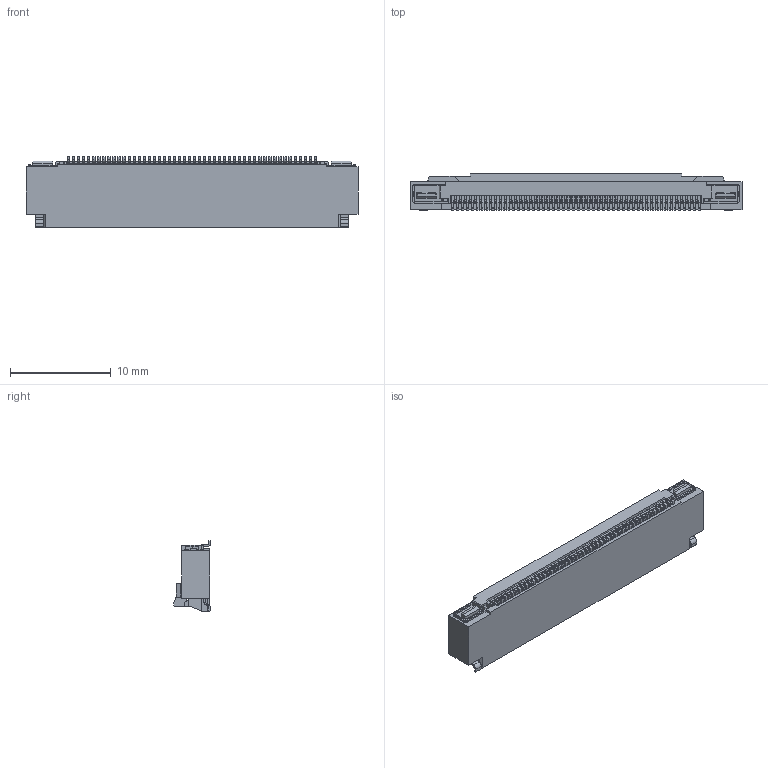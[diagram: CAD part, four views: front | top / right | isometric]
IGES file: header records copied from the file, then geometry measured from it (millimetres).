
Start section: SolidWorks IGES file using analytic representation for surfaces
Global section: file name: 9HC:\Users\ieng2-006\Desktop\WORKING\nakamura\GHT 3Dモデル作成\GHT IGES\20899-050E-01 IGES R3 ALL.IGS; native system: SolidWorks 2017; preprocessor: SolidWorks 2017; author: ieng2-006; date: 190328.164019; units: millimetre
Bounding box: 33 x 3.65 x 7 mm (x, y, z)
Surface area: 781.8 mm2 (no closed solid volume)
Topology: 0 solids, 0 shells, 1453 faces, 9782 edges, 9782 vertices
Faces by surface type: bspline 1226, revolution 227
